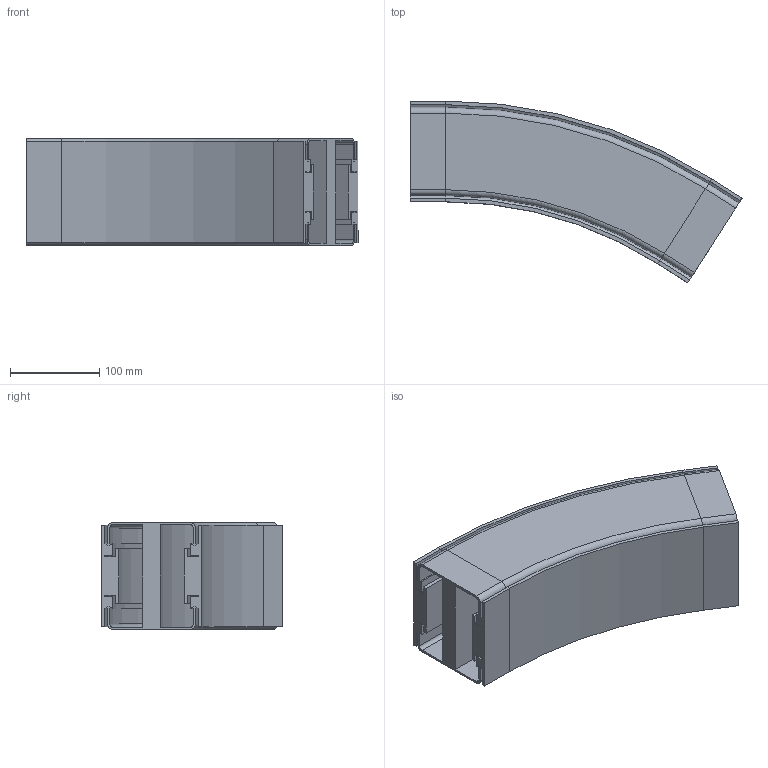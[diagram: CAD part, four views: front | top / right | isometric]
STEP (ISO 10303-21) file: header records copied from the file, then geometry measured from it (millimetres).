
FILE_DESCRIPTION (( 'STEP AP214' ), '1' );
FILE_NAME ('VC.120 Verticale bochtsectie.R500 32,5.STEP', '2017-02-08T08:10:19', ( '' ), ( '' ), 'SwSTEP 2.0', 'SolidWorks 2016', '' );
FILE_SCHEMA (( 'AUTOMOTIVE_DESIGN' ));
Length unit declared in the file: millimetre
Products named in the file (1): VC.120 Verticale bochtsectie.R500 32,5
Bounding box: 372.74 x 203.95 x 120 mm (x, y, z)
Volume: 2143927.3 mm3; surface area: 530202.1 mm2
Topology: 1 solids, 1 shells, 206 faces, 476 edges, 272 vertices
Faces by surface type: plane 144, cylinder 46, cone 8, torus 8
Entity records: 5674 total; most frequent: DIRECTION 990, CARTESIAN_POINT 955, ORIENTED_EDGE 952, EDGE_CURVE 476, VECTOR 376, LINE 376, AXIS2_PLACEMENT_3D 307, VERTEX_POINT 272
